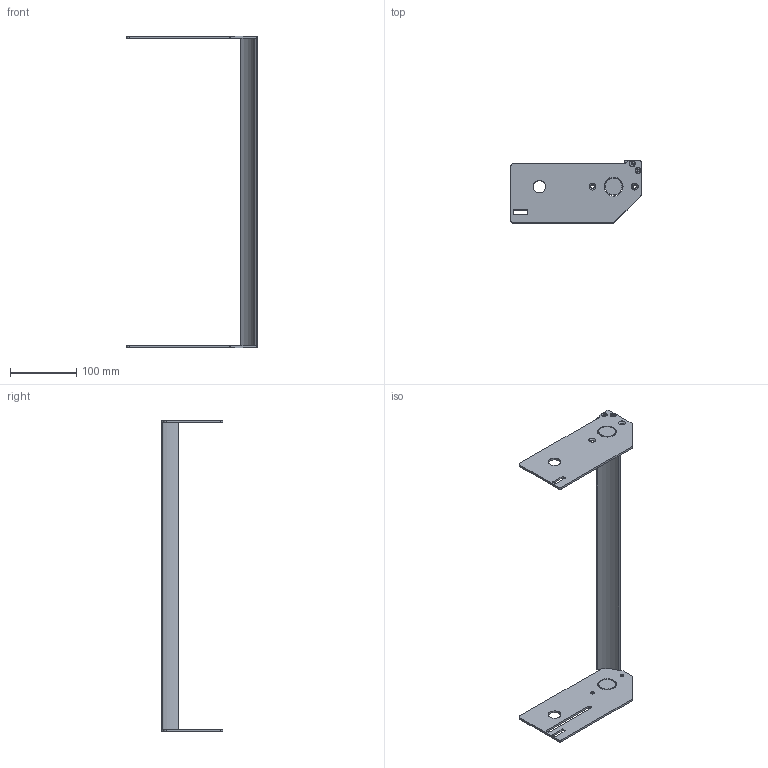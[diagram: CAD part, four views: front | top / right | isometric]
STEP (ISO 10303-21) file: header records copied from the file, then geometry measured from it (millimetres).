
FILE_DESCRIPTION((''),'2;1');
FILE_NAME('351040-18_ASM','2016-06-16T',('adam.dellomodarme'),(''),'PRO/ENGINEER BY PARAMETRIC TECHNOLOGY CORPORATION, 2012420','PRO/ENGINEER BY PARAMETRIC TECHNOLOGY CORPORATION, 2012420','');
FILE_SCHEMA(('CONFIG_CONTROL_DESIGN'));
Length unit declared in the file: inch
Products named in the file (6): 9304XXM_930410M; 350538; 350537; 350539-WW_350539-18; ASM0001_ASM; 351040-18_ASM
Assembly tree (8 placements, depth 3):
  351040-18_ASM
    ASM0001_ASM
      9304XXM_930410M  x4
      350538
      350537
      350539-WW_350539-18
Bounding box: 196.06 x 92.74 x 469.54 mm (x, y, z)
Volume: 230328.4 mm3; surface area: 121356.8 mm2
Topology: 7 solids, 7 shells, 216 faces, 536 edges, 334 vertices
Faces by surface type: cylinder 80, plane 76, cone 60
Entity records: 4969 total; most frequent: CARTESIAN_POINT 905, DIRECTION 885, ORIENTED_EDGE 790, EDGE_CURVE 395, AXIS2_PLACEMENT_3D 339, VERTEX_POINT 256, VECTOR 207, LINE 207
